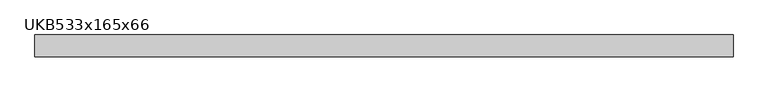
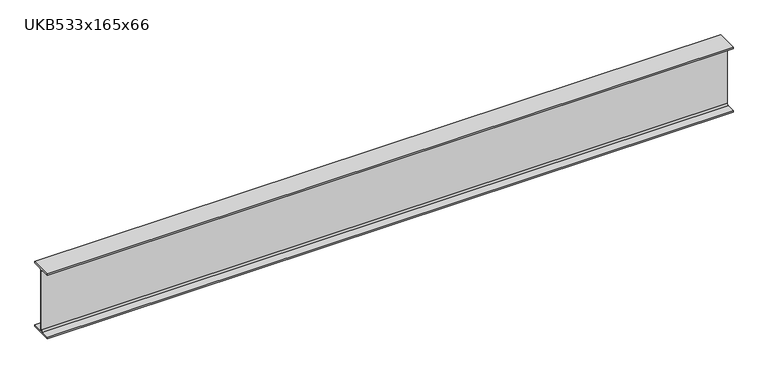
"""IFC4 building model written with IfcOpenShell, lengths in millimetres: beam geometry, UKB-UK Beams : UKB533x165x66."""

from ifc_helpers import new_model, si_unit, point, frame, frame_2d, origin, place, context, project, spatial, polyline, circle_curve, trimmed, segment, composite_curve, outline, extrude, source, transform, mapped, element, save


def ukb533x165x66_3e5d533c(model_context):
    return source(origin(), model_context, "Body", "SweptSolid", [
        extrude(outline(composite_curve([segment(polyline([(82.55, -250.95), (82.55, -262.35), (-82.55, -262.35), (-82.55, -250.95), (-17.15, -250.95)]), True, "CONTINUOUS"), segment(trimmed(circle_curve(frame_2d((-17.15, -238.25)), 12.7), [point((-17.15, -250.95))], [point((-4.45, -238.25))], True, "CARTESIAN"), True, "CONTINUOUS"), segment(polyline([(-4.45, -238.25), (-4.45, 238.25)]), True, "CONTINUOUS"), segment(trimmed(circle_curve(frame_2d((-17.15, 238.25)), 12.7), [point((-4.45, 238.25))], [point((-17.15, 250.95))], True, "CARTESIAN"), True, "CONTINUOUS"), segment(polyline([(-17.15, 250.95), (-82.55, 250.95), (-82.55, 262.35), (82.55, 262.35), (82.55, 250.95), (17.15, 250.95)]), True, "CONTINUOUS"), segment(trimmed(circle_curve(frame_2d((17.15, 238.25)), 12.7), [point((17.15, 250.95))], [point((4.45, 238.25))], True, "CARTESIAN"), True, "CONTINUOUS"), segment(polyline([(4.45, 238.25), (4.45, -238.25)]), True, "CONTINUOUS"), segment(trimmed(circle_curve(frame_2d((17.15, -238.25)), 12.7), [point((4.45, -238.25))], [point((17.15, -250.95))], True, "CARTESIAN"), True, "CONTINUOUS"), segment(polyline([(17.15, -250.95), (82.55, -250.95)]), True, "CONTINUOUS")], self_intersect=False)), frame((-2626.5, 0.0, 0.0), z_axis=(1.0, 0.0, 0.0), x_axis=(0.0, 1.0, 0.0)), (0.0, 0.0, 1.0), 5253.0),
    ])


if __name__ == "__main__":
    model = new_model("IFC4")
    model_context = context("Model", 3, world=origin())
    ifc_project = project(units=[si_unit("LENGTHUNIT", "METRE", prefix="MILLI")], contexts=[model_context])
    site = spatial("IfcSite", under=ifc_project)
    building = spatial("IfcBuilding", under=site)
    placement = place(None, origin())
    ukb533x165x66_shape = ukb533x165x66_3e5d533c(model_context)
    element("IfcBeam", 1, ObjectType="UKB-UK Beams : UKB533x165x66", at=placement, inside=building, context=model_context, shape_type="MappedRepresentation", body=[
        mapped(ukb533x165x66_shape, transform((0.0, 0.0, 0.0), x_axis=(1.0, 0.0, 0.0), y_axis=(0.0, 1.0, 0.0), z_axis=(0.0, 0.0, 1.0))),
    ])
    save(model, "model.ifc")
